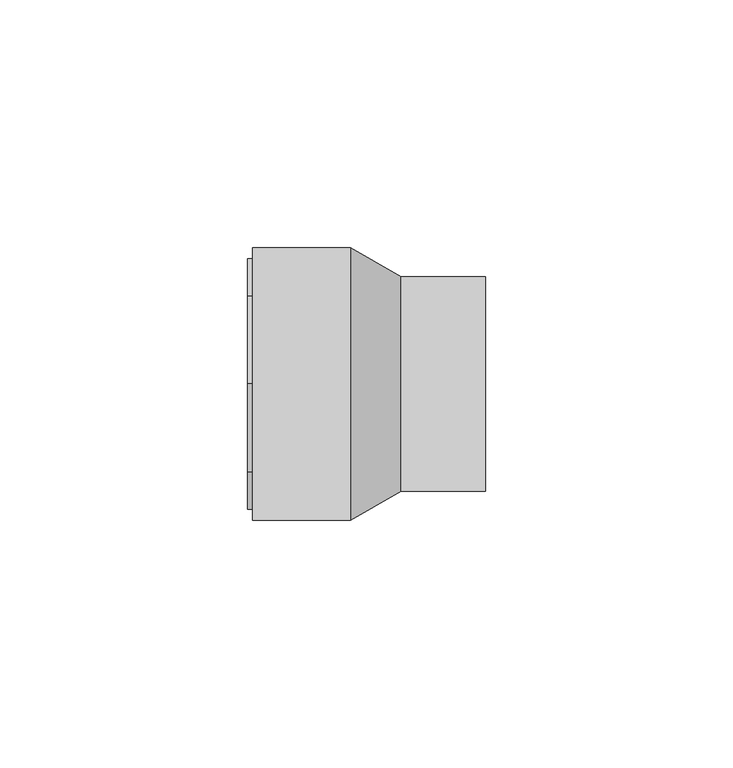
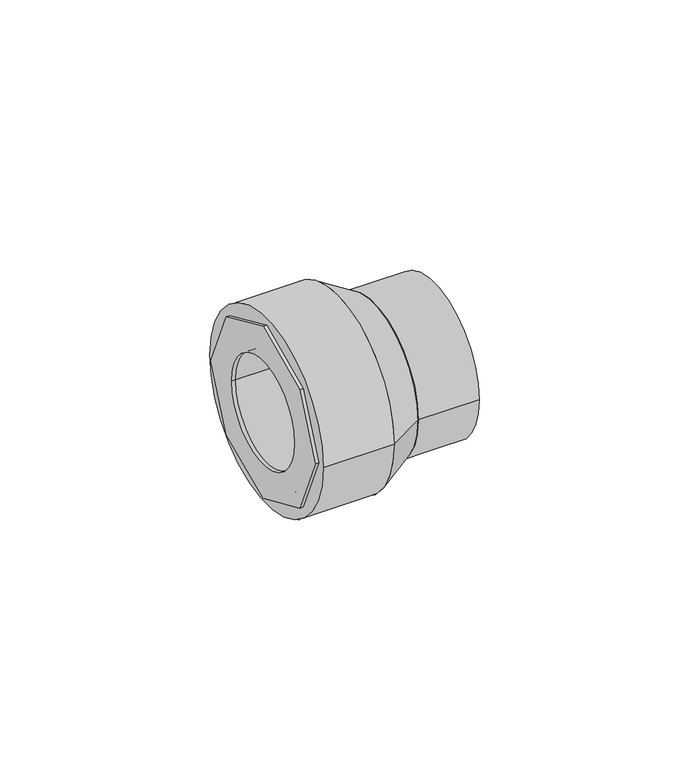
"""IFC4 building model written with IfcOpenShell, lengths in millimetres: pipe fitting geometry, 20_Муфта комбинированная под ключ ВР : Белый цвет."""

from ifc_helpers import new_model, si_unit, point, frame, origin, origin_2d, place, context, project, spatial, polyline, circle_curve, trimmed, segment, composite_curve, outline, extrude, source, transform, mapped, element, save
from ifc_brep_helpers import plane_surface, revolved_surface, advanced_brep


def pipe_fitting_2aa4dc1e(model_context):
    return source(origin(), model_context, "Body", "SolidModel", [
        extrude(outline(polyline([(17.8493955, 17.4861344), (25.2428571, 0.0), (17.8493955, -17.4861344), (0.0, -25.4696352), (-17.8493955, -17.4861344), (-25.2428571, 0.0), (-17.8493955, 17.4861344), (0.0, 25.4696352), (17.8493955, 17.4861344)]), holes=[composite_curve([segment(trimmed(circle_curve(origin_2d(), 15.25), [point((-15.25, 0.0))], [point((15.25, 0.0))], True, "CARTESIAN"), True, "CONTINUOUS"), segment(trimmed(circle_curve(origin_2d(), 15.25), [point((15.25, 0.0))], [point((-15.25, 0.0))], True, "CARTESIAN"), True, "CONTINUOUS")], self_intersect=False)]), frame((-24.5, 0.0, 0.0), z_axis=(1.0, 0.0, 0.0), x_axis=(0.0, 1.0, 0.0)), (0.0, 0.0, 1.0), 1.0),
        extrude(outline(composite_curve([segment(trimmed(circle_curve(origin_2d(), 21.0), [point((21.0, 0.0))], [point((-21.0, 0.0))], False, "CARTESIAN"), True, "CONTINUOUS"), segment(trimmed(circle_curve(origin_2d(), 21.0), [point((-21.0, 0.0))], [point((21.0, 0.0))], False, "CARTESIAN"), True, "CONTINUOUS")], self_intersect=False), holes=[composite_curve([segment(trimmed(circle_curve(origin_2d(), 15.25), [point((15.25, 0.0))], [point((-15.25, 0.0))], True, "CARTESIAN"), True, "CONTINUOUS"), segment(trimmed(circle_curve(origin_2d(), 15.25), [point((-15.25, 0.0))], [point((15.25, 0.0))], True, "CARTESIAN"), True, "CONTINUOUS")], self_intersect=False)]), frame((-23.5, 0.0, 0.0), z_axis=(1.0, 0.0, 0.0), x_axis=(0.0, 1.0, 0.0)), (0.0, 0.0, 1.0), 17.5),
        extrude(outline(composite_curve([segment(trimmed(circle_curve(origin_2d(), 27.5), [point((-27.5, 0.0))], [point((27.5, 0.0))], False, "CARTESIAN"), True, "CONTINUOUS"), segment(trimmed(circle_curve(origin_2d(), 27.5), [point((27.5, 0.0))], [point((-27.5, 0.0))], False, "CARTESIAN"), True, "CONTINUOUS")], self_intersect=False), holes=[composite_curve([segment(trimmed(circle_curve(origin_2d(), 21.0), [point((-21.0, 0.0))], [point((21.0, 0.0))], True, "CARTESIAN"), True, "CONTINUOUS"), segment(trimmed(circle_curve(origin_2d(), 21.0), [point((21.0, 0.0))], [point((-21.0, 0.0))], True, "CARTESIAN"), True, "CONTINUOUS")], self_intersect=False)]), frame((-23.5, 0.0, 0.0), z_axis=(1.0, 0.0, 0.0), x_axis=(0.0, 1.0, 0.0)), (0.0, 0.0, 1.0), 19.8),
        extrude(outline(composite_curve([segment(trimmed(circle_curve(origin_2d(), 21.6), [point((-21.6, 0.0))], [point((21.6, 0.0))], False, "CARTESIAN"), True, "CONTINUOUS"), segment(trimmed(circle_curve(origin_2d(), 21.6), [point((21.6, 0.0))], [point((-21.6, 0.0))], False, "CARTESIAN"), True, "CONTINUOUS")], self_intersect=False), holes=[composite_curve([segment(trimmed(circle_curve(origin_2d(), 16.0), [point((-16.0, 0.0))], [point((16.0, 0.0))], True, "CARTESIAN"), True, "CONTINUOUS"), segment(trimmed(circle_curve(origin_2d(), 16.0), [point((16.0, 0.0))], [point((-16.0, 0.0))], True, "CARTESIAN"), True, "CONTINUOUS")], self_intersect=False)]), frame((6.5, 0.0, 0.0), z_axis=(1.0, 0.0, 0.0), x_axis=(0.0, 1.0, 0.0)), (0.0, 0.0, 1.0), 17.0),
        advanced_brep(
        [(6.5, -21.6, 0.0), (6.5, 21.6, 0.0), (6.5, 16.0, 0.0), (6.5, -16.0, 0.0), (-3.7, -27.5, 0.0), (-3.7, 27.5, 0.0), (-3.7, -21.0, 0.0), (-3.7, 21.0, 0.0)],
        [
            (0, 1, circle_curve(frame((6.5, 0.0, 0.0), z_axis=(1.0, 0.0, 0.0), x_axis=(0.0, -1.0, 0.0)), 21.6)),
            (1, 0, circle_curve(frame((6.5, 0.0, 0.0), z_axis=(1.0, 0.0, 0.0), x_axis=(0.0, 1.0, 0.0)), 21.6)),
            (2, 3, circle_curve(frame((6.5, 0.0, 0.0), z_axis=(-1.0, 0.0, 0.0), x_axis=(0.0, -1.0, 0.0)), 16.0)),
            (3, 2, circle_curve(frame((6.5, 0.0, 0.0), z_axis=(-1.0, 0.0, 0.0), x_axis=(0.0, 1.0, 0.0)), 16.0)),
            (4, 5, circle_curve(frame((-3.7, 0.0, 0.0), z_axis=(-1.0, 0.0, 0.0), x_axis=(0.0, 1.0, 0.0)), 27.5)),
            (5, 4, circle_curve(frame((-3.7, 0.0, 0.0), z_axis=(-1.0, 0.0, 0.0), x_axis=(0.0, -1.0, 0.0)), 27.5)),
            (6, 7, circle_curve(frame((-3.7, 0.0, 0.0), z_axis=(1.0, 0.0, 0.0), x_axis=(0.0, -1.0, 0.0)), 21.0)),
            (7, 6, circle_curve(frame((-3.7, 0.0, 0.0), z_axis=(1.0, 0.0, 0.0), x_axis=(0.0, 1.0, 0.0)), 21.0)),
            (0, 4),
            (5, 1),
            (6, 3),
            (2, 7),
        ],
        [
            plane_surface(frame((6.5, 0.0, 0.0), z_axis=(1.0, 0.0, 0.0), x_axis=(0.0, 0.0, -1.0))),
            plane_surface(frame((-3.7, 0.0, 0.0), z_axis=(-1.0, 0.0, 0.0), x_axis=(0.0, 0.0, -1.0))),
            revolved_surface(polyline([(6.5, -21.600000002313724, 0.0), (-3.700000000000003, -27.5, 0.0)]), (43.8423729, 0.0, 0.0), (-1.0, 0.0, 0.0)),
            revolved_surface(polyline([(6.5, 21.600000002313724, 0.0), (-3.700000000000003, 27.5, 0.0)]), (43.8423729, 0.0, 0.0), (-1.0, 0.0, 0.0)),
            revolved_surface(polyline([(-3.700000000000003, -21.0, 0.0), (6.5, -16.0, 0.0)]), (39.14, 0.0, 0.0), (-1.0, 0.0, 0.0)),
        ],
        [
            (0, [[1, 2], [3, 4]]),
            (1, [[5, 6], [7, 8]]),
            (2, [[-1, 9, -6, 10]]),
            (3, [[-2, -10, -5, -9]]),
            (4, [[11, -3, 12, -7]]),
            (4, [[-11, -8, -12, -4]]),
        ],
    ),
    ])


if __name__ == "__main__":
    model = new_model("IFC4")
    model_context = context("Model", 3, world=origin())
    ifc_project = project(units=[si_unit("LENGTHUNIT", "METRE", prefix="MILLI")], contexts=[model_context])
    site = spatial("IfcSite", under=ifc_project)
    building = spatial("IfcBuilding", under=site)
    placement = place(None, origin())
    pipe_fitting_shape = pipe_fitting_2aa4dc1e(model_context)
    element("IfcPipeFitting", 1, ObjectType="20_Муфта комбинированная под ключ ВР : Белый цвет", at=placement, inside=building, context=model_context, shape_type="MappedRepresentation", body=[
        mapped(pipe_fitting_shape, transform((0.0, 0.0, 0.0), x_axis=(1.0, 0.0, 0.0), y_axis=(0.0, 1.0, 0.0), z_axis=(0.0, 0.0, 1.0))),
    ])
    save(model, "model.ifc")
